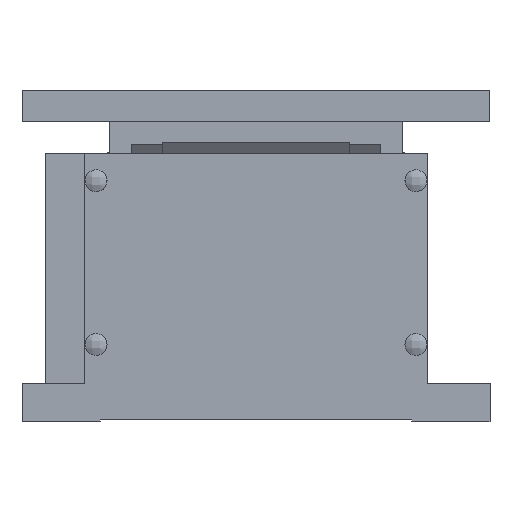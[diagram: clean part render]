
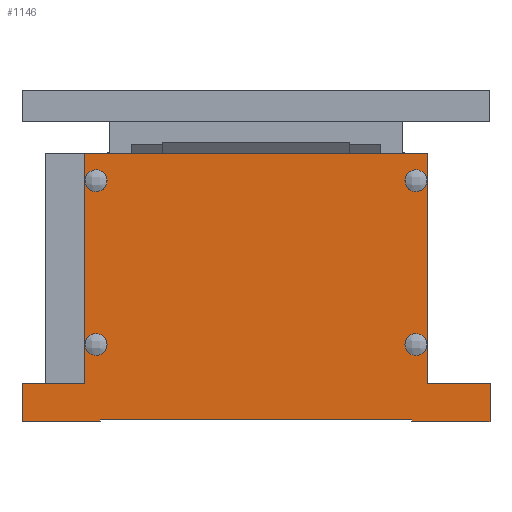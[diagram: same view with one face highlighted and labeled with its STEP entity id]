
A CAD part, left-side view. The second image highlights one B-rep face of the part: STEP entity #1146.
In plain terms, the highlighted planar face has unit normal (-1, 0, 0).
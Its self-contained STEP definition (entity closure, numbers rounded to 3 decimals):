
#1146=ADVANCED_FACE('',(#2376,#2377,#2378,#2379,#2380),#2381,.T.);
#2376=FACE_OUTER_BOUND('',#4022,.T.);
#2377=FACE_BOUND('',#4023,.T.);
#2378=FACE_BOUND('',#4024,.T.);
#2379=FACE_BOUND('',#4025,.T.);
#2380=FACE_BOUND('',#4026,.T.);
#2381=PLANE('',#4027);
#4022=EDGE_LOOP('',(#7307,#7308,#7309,#7310,#7311,#7312,#7313,#7314,#7315,#7316,#7317,#7318));
#4023=EDGE_LOOP('',(#7319,#7320));
#4024=EDGE_LOOP('',(#7321,#7322));
#4025=EDGE_LOOP('',(#7323,#7324));
#4026=EDGE_LOOP('',(#7325,#7326));
#4027=AXIS2_PLACEMENT_3D('',#7327,#7328,#7329);
#7307=ORIENTED_EDGE('',*,*,#9045,.T.);
#7308=ORIENTED_EDGE('',*,*,#8513,.T.);
#7309=ORIENTED_EDGE('',*,*,#8141,.F.);
#7310=ORIENTED_EDGE('',*,*,#8502,.F.);
#7311=ORIENTED_EDGE('',*,*,#9086,.F.);
#7312=ORIENTED_EDGE('',*,*,#8629,.F.);
#7313=ORIENTED_EDGE('',*,*,#7889,.T.);
#7314=ORIENTED_EDGE('',*,*,#9087,.F.);
#7315=ORIENTED_EDGE('',*,*,#8304,.T.);
#7316=ORIENTED_EDGE('',*,*,#8527,.T.);
#7317=ORIENTED_EDGE('',*,*,#8401,.T.);
#7318=ORIENTED_EDGE('',*,*,#9075,.T.);
#7319=ORIENTED_EDGE('',*,*,#9034,.F.);
#7320=ORIENTED_EDGE('',*,*,#8353,.F.);
#7321=ORIENTED_EDGE('',*,*,#8241,.F.);
#7322=ORIENTED_EDGE('',*,*,#8562,.F.);
#7323=ORIENTED_EDGE('',*,*,#8719,.F.);
#7324=ORIENTED_EDGE('',*,*,#9012,.F.);
#7325=ORIENTED_EDGE('',*,*,#8953,.F.);
#7326=ORIENTED_EDGE('',*,*,#7768,.F.);
#7327=CARTESIAN_POINT('',(-60.,0.,18.5));
#7328=DIRECTION('',(-1.0,0.,0.));
#7329=DIRECTION('',(0.,1.0,0.0));
#7768=EDGE_CURVE('',#9168,#9171,#9172,.T.);
#7889=EDGE_CURVE('',#9382,#9386,#9388,.T.);
#8141=EDGE_CURVE('',#9808,#9810,#9811,.T.);
#8241=EDGE_CURVE('',#9978,#9973,#9980,.T.);
#8304=EDGE_CURVE('',#10083,#10081,#10084,.T.);
#8353=EDGE_CURVE('',#10155,#10158,#10159,.T.);
#8401=EDGE_CURVE('',#10226,#10233,#10235,.T.);
#8502=EDGE_CURVE('',#10383,#9808,#10384,.T.);
#8513=EDGE_CURVE('',#10401,#9810,#10402,.T.);
#8527=EDGE_CURVE('',#10081,#10226,#10424,.T.);
#8562=EDGE_CURVE('',#9973,#9978,#10472,.T.);
#8629=EDGE_CURVE('',#9382,#10572,#10573,.T.);
#8719=EDGE_CURVE('',#10696,#10694,#10698,.T.);
#8953=EDGE_CURVE('',#9171,#9168,#10989,.T.);
#9012=EDGE_CURVE('',#10694,#10696,#11053,.T.);
#9034=EDGE_CURVE('',#10158,#10155,#11079,.T.);
#9045=EDGE_CURVE('',#11090,#10401,#11091,.T.);
#9075=EDGE_CURVE('',#10233,#11090,#11123,.T.);
#9086=EDGE_CURVE('',#10572,#10383,#11134,.T.);
#9087=EDGE_CURVE('',#10083,#9386,#11135,.T.);
#9168=VERTEX_POINT('',#11222);
#9171=VERTEX_POINT('',#11226);
#9172=CIRCLE('',#11227,2.8);
#9382=VERTEX_POINT('',#11583);
#9386=VERTEX_POINT('',#11589);
#9388=LINE('',#11592,#11593);
#9808=VERTEX_POINT('',#12177);
#9810=VERTEX_POINT('',#12180);
#9811=LINE('',#12181,#12182);
#9973=VERTEX_POINT('',#12402);
#9978=VERTEX_POINT('',#12425);
#9980=CIRCLE('',#12428,2.8);
#10081=VERTEX_POINT('',#12575);
#10083=VERTEX_POINT('',#12578);
#10084=LINE('',#12579,#12580);
#10155=VERTEX_POINT('',#12711);
#10158=VERTEX_POINT('',#12715);
#10159=CIRCLE('',#12716,2.8);
#10226=VERTEX_POINT('',#12857);
#10233=VERTEX_POINT('',#12867);
#10235=LINE('',#12870,#12871);
#10383=VERTEX_POINT('',#13090);
#10384=LINE('',#13091,#13092);
#10401=VERTEX_POINT('',#13115);
#10402=LINE('',#13116,#13117);
#10424=LINE('',#13144,#13145);
#10472=CIRCLE('',#13205,2.8);
#10572=VERTEX_POINT('',#13392);
#10573=LINE('',#13393,#13394);
#10694=VERTEX_POINT('',#13589);
#10696=VERTEX_POINT('',#13592);
#10698=CIRCLE('',#13595,2.8);
#10989=CIRCLE('',#14026,2.8);
#11053=CIRCLE('',#14119,2.8);
#11079=CIRCLE('',#14155,2.8);
#11090=VERTEX_POINT('',#14169);
#11091=LINE('',#14170,#14171);
#11123=LINE('',#14214,#14215);
#11134=LINE('',#14227,#14228);
#11135=LINE('',#14229,#14230);
#11222=CARTESIAN_POINT('',(-60.,-41.,17.));
#11226=CARTESIAN_POINT('',(-60.,-41.,22.6));
#11227=AXIS2_PLACEMENT_3D('',#14314,#14315,#14316);
#11583=CARTESIAN_POINT('',(-60.,-40.,0.5));
#11589=CARTESIAN_POINT('',(-60.,-40.,0.));
#11592=CARTESIAN_POINT('',(-60.,-40.,18.5));
#11593=VECTOR('',#14440,1000.0);
#12177=CARTESIAN_POINT('',(-60.,60.,0.));
#12180=CARTESIAN_POINT('',(-60.,60.,9.8));
#12181=CARTESIAN_POINT('',(-60.,60.,18.5));
#12182=VECTOR('',#14758,1000.0);
#12402=CARTESIAN_POINT('',(-60.,41.,17.));
#12425=CARTESIAN_POINT('',(-60.,41.,22.6));
#12428=AXIS2_PLACEMENT_3D('',#14873,#14874,#14875);
#12575=CARTESIAN_POINT('',(-60.,-60.,9.8));
#12578=CARTESIAN_POINT('',(-60.,-60.,0.));
#12579=CARTESIAN_POINT('',(-60.,-60.,18.5));
#12580=VECTOR('',#14935,1000.0);
#12711=CARTESIAN_POINT('',(-60.,-41.,59.));
#12715=CARTESIAN_POINT('',(-60.,-41.,64.6));
#12716=AXIS2_PLACEMENT_3D('',#14984,#14985,#14986);
#12857=CARTESIAN_POINT('',(-60.,-44.,9.8));
#12867=CARTESIAN_POINT('',(-60.,-44.,68.8));
#12870=CARTESIAN_POINT('',(-60.,-44.,18.5));
#12871=VECTOR('',#15035,1000.0);
#13090=CARTESIAN_POINT('',(-60.,40.,0.));
#13091=CARTESIAN_POINT('',(-60.,0.,0.));
#13092=VECTOR('',#15147,1000.0);
#13115=CARTESIAN_POINT('',(-60.,44.,9.8));
#13116=CARTESIAN_POINT('',(-60.,0.,9.8));
#13117=VECTOR('',#15160,1000.0);
#13144=CARTESIAN_POINT('',(-60.,0.,9.8));
#13145=VECTOR('',#15184,1000.0);
#13205=AXIS2_PLACEMENT_3D('',#15236,#15237,#15238);
#13392=CARTESIAN_POINT('',(-60.,40.,0.5));
#13393=CARTESIAN_POINT('',(-60.,-40.,0.5));
#13394=VECTOR('',#15305,1000.0);
#13589=CARTESIAN_POINT('',(-60.,41.,59.));
#13592=CARTESIAN_POINT('',(-60.,41.,64.6));
#13595=AXIS2_PLACEMENT_3D('',#15389,#15390,#15391);
#14026=AXIS2_PLACEMENT_3D('',#15679,#15680,#15681);
#14119=AXIS2_PLACEMENT_3D('',#15720,#15721,#15722);
#14155=AXIS2_PLACEMENT_3D('',#15736,#15737,#15738);
#14169=CARTESIAN_POINT('',(-60.,44.,68.8));
#14170=CARTESIAN_POINT('',(-60.,44.,18.5));
#14171=VECTOR('',#15745,1000.0);
#14214=CARTESIAN_POINT('',(-60.,0.,68.8));
#14215=VECTOR('',#15769,1000.0);
#14227=CARTESIAN_POINT('',(-60.,40.,500009.25));
#14228=VECTOR('',#15771,1000.0);
#14229=CARTESIAN_POINT('',(-60.,0.,0.));
#14230=VECTOR('',#15772,1000.0);
#14314=CARTESIAN_POINT('',(-60.,-41.,19.8));
#14315=DIRECTION('',(-1.0,0.,0.));
#14316=DIRECTION('',(0.,-1.0,0.0));
#14440=DIRECTION('',(0.,0.,-1.0));
#14758=DIRECTION('',(0.,0.,1.0));
#14873=CARTESIAN_POINT('',(-60.,41.,19.8));
#14874=DIRECTION('',(-1.0,0.,0.));
#14875=DIRECTION('',(0.,-1.0,0.0));
#14935=DIRECTION('',(0.,0.,1.0));
#14984=CARTESIAN_POINT('',(-60.,-41.,61.8));
#14985=DIRECTION('',(-1.0,0.,0.));
#14986=DIRECTION('',(0.,-1.0,0.0));
#15035=DIRECTION('',(0.,0.,1.0));
#15147=DIRECTION('',(0.,1.0,0.));
#15160=DIRECTION('',(0.,1.0,0.));
#15184=DIRECTION('',(0.,1.0,0.));
#15236=CARTESIAN_POINT('',(-60.,41.,19.8));
#15237=DIRECTION('',(-1.0,0.,0.));
#15238=DIRECTION('',(0.,-1.0,0.0));
#15305=DIRECTION('',(0.,1.0,0.));
#15389=CARTESIAN_POINT('',(-60.,41.,61.8));
#15390=DIRECTION('',(-1.0,0.,0.));
#15391=DIRECTION('',(0.,-1.0,0.0));
#15679=CARTESIAN_POINT('',(-60.,-41.,19.8));
#15680=DIRECTION('',(-1.0,0.,0.));
#15681=DIRECTION('',(0.,-1.0,0.0));
#15720=CARTESIAN_POINT('',(-60.,41.,61.8));
#15721=DIRECTION('',(-1.0,0.,0.));
#15722=DIRECTION('',(0.,-1.0,0.0));
#15736=CARTESIAN_POINT('',(-60.,-41.,61.8));
#15737=DIRECTION('',(-1.0,0.,0.));
#15738=DIRECTION('',(0.,-1.0,0.0));
#15745=DIRECTION('',(0.,0.,-1.0));
#15769=DIRECTION('',(0.,1.0,0.));
#15771=DIRECTION('',(0.,0.,-1.0));
#15772=DIRECTION('',(0.,1.0,0.));
